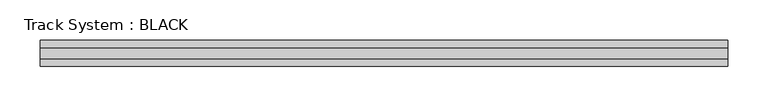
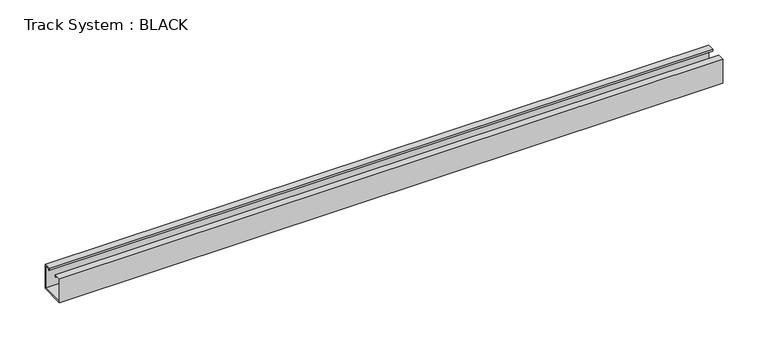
"""IFC4 building model written with IfcOpenShell, lengths in millimetres: proxy geometry, Track System : BLACK."""

from ifc_helpers import new_model, si_unit, frame, origin, place, context, project, spatial, polyline, outline, extrude, source, transform, mapped, element, save


def track_system_black_c651434b(model_context):
    return source(origin(), model_context, "Body", "SweptSolid", [
        extrude(outline(polyline([(-7.0, 32.5), (-7.0, 29.5366355), (-8.0, 29.5366355), (-8.0, 31.5), (-14.9857524, 31.5), (-14.9857524, 1.0), (15.0, 1.0), (15.0, 31.5), (8.0, 31.5), (8.0, 29.5366355), (7.0, 29.5366355), (7.0, 32.5), (16.0, 32.5), (16.0, 0.0), (-15.9857524, 0.0), (-15.9857524, 32.5), (-7.0, 32.5)])), frame((-425.0, 0.0, 0.0), z_axis=(1.0, 0.0, 0.0), x_axis=(0.0, 1.0, 0.0)), (0.0, 0.0, 1.0), 850.0),
    ])


if __name__ == "__main__":
    model = new_model("IFC4")
    model_context = context("Model", 3, world=origin())
    ifc_project = project(units=[si_unit("LENGTHUNIT", "METRE", prefix="MILLI")], contexts=[model_context])
    site = spatial("IfcSite", under=ifc_project)
    building = spatial("IfcBuilding", under=site)
    placement = place(None, origin())
    track_system_black_shape = track_system_black_c651434b(model_context)
    element("IfcBuildingElementProxy", 1, Name="Track System : BLACK", ObjectType="Track System : BLACK", at=placement, inside=building, context=model_context, shape_type="MappedRepresentation", body=[
        mapped(track_system_black_shape, transform((0.0, 0.0, 0.0), x_axis=(1.0, 0.0, 0.0), y_axis=(0.0, 1.0, 0.0), z_axis=(0.0, 0.0, 1.0))),
    ])
    save(model, "model.ifc")
